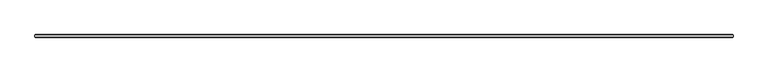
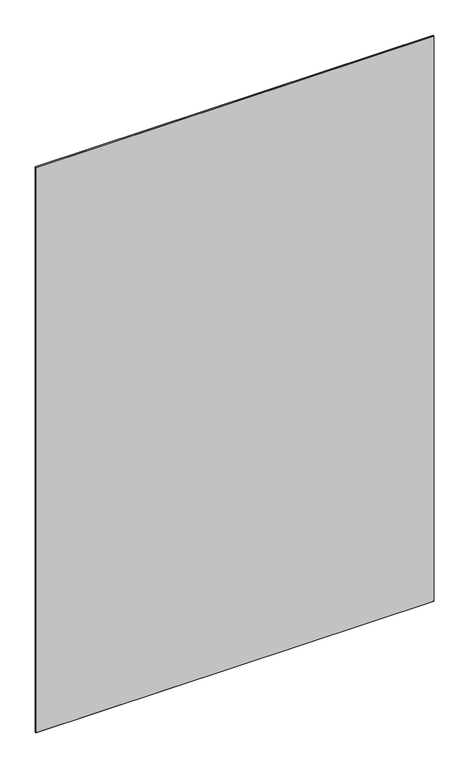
"""IFC4 building model written with IfcOpenShell, lengths in millimetres: plate geometry, 1-AMG-1-Панель одинарный витраж 8, 10 : Смещение 32 Толщина 8mm."""

from ifc_helpers import new_model, si_unit, origin, place, context, project, spatial, faceted_brep, source, transform, mapped, element, save


def plate_14d48185(model_context):
    return source(origin(), model_context, "Body", "Brep", [
        faceted_brep([(920.9988281, 29.5038347, 2751.0), (920.9988281, 34.4961653, 2751.0), (-915.9988281, 34.4961653, 2751.0), (-915.9988281, 29.5038347, 2751.0), (920.9988281, 34.4961653, -7.0), (920.9988281, 29.5038347, -7.0), (-915.9988281, 29.5038347, -7.0), (-915.9988281, 34.4961653, -7.0), (-914.4949934, 36.0, 2749.4961653), (919.4949934, 36.0, 2749.4961653), (919.4949934, 36.0, -5.5039422), (-914.4949934, 36.0, -5.5039422), (919.4949934, 28.0, 2749.4961653), (-914.4949934, 28.0, 2749.4961653), (-914.4949934, 28.0, -5.4961653), (919.4949934, 28.0, -5.4961653)], [[[0, 1, 2, 3]], [[4, 5, 6, 7]], [[8, 9, 10, 11]], [[3, 2, 7, 6]], [[12, 13, 14, 15]], [[1, 0, 5, 4]], [[1, 4, 10, 9]], [[5, 0, 12, 15]], [[7, 2, 8, 11]], [[3, 6, 14, 13]], [[0, 3, 13, 12]], [[2, 1, 9, 8]], [[6, 5, 15, 14]], [[4, 7, 11, 10]]]),
    ])


if __name__ == "__main__":
    model = new_model("IFC4")
    model_context = context("Model", 3, world=origin())
    ifc_project = project(units=[si_unit("LENGTHUNIT", "METRE", prefix="MILLI")], contexts=[model_context])
    site = spatial("IfcSite", under=ifc_project)
    building = spatial("IfcBuilding", under=site)
    placement = place(None, origin())
    plate_shape = plate_14d48185(model_context)
    element("IfcPlate", 1, ObjectType="1-AMG-1-Панель одинарный витраж 8, 10 : Смещение 32 Толщина 8mm", at=placement, inside=building, context=model_context, shape_type="MappedRepresentation", body=[
        mapped(plate_shape, transform((0.0, 0.0, 0.0), x_axis=(1.0, 0.0, 0.0), y_axis=(0.0, 1.0, 0.0), z_axis=(0.0, 0.0, 1.0))),
    ])
    save(model, "model.ifc")
